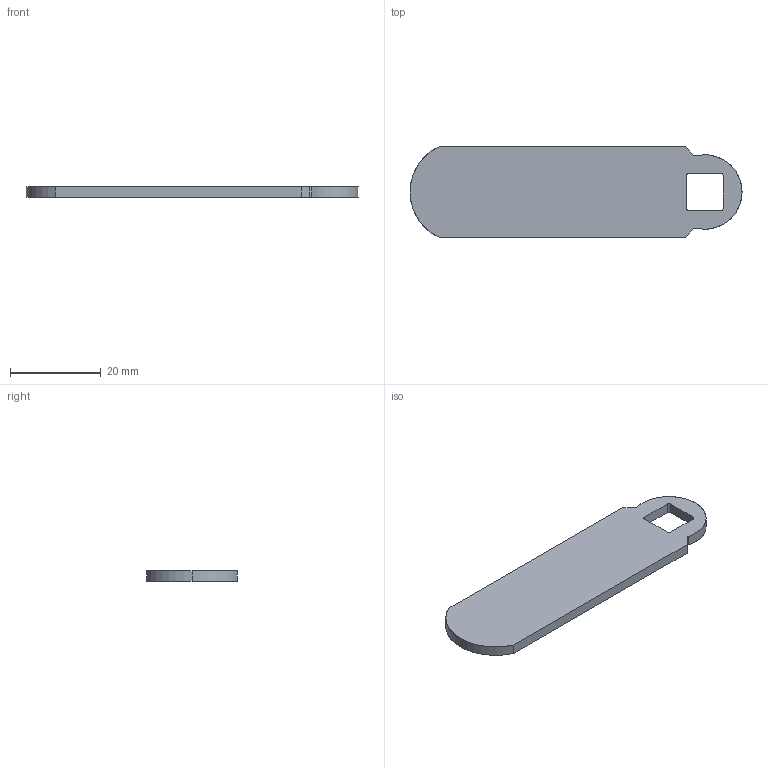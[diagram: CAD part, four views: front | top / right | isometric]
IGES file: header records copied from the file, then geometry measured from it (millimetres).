
Start section: SolidWorks IGES file using analytic representation for surfaces
Bounding box: 73.2 x 20 x 2.3 mm (x, y, z)
Surface area: 3045.3 mm2 (no closed solid volume)
Topology: 0 solids, 0 shells, 19 faces, 228 edges, 228 vertices
Faces by surface type: bspline 10, revolution 9
